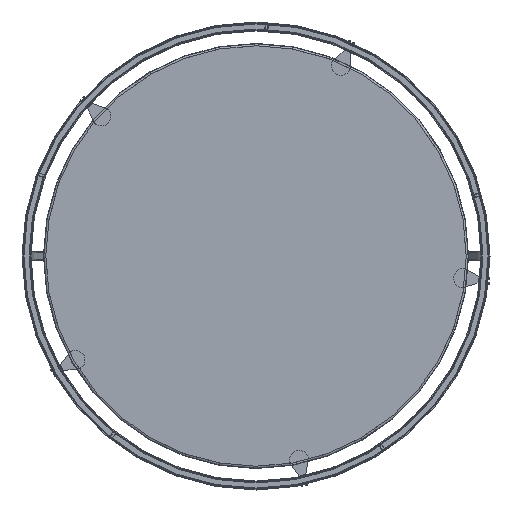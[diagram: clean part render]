
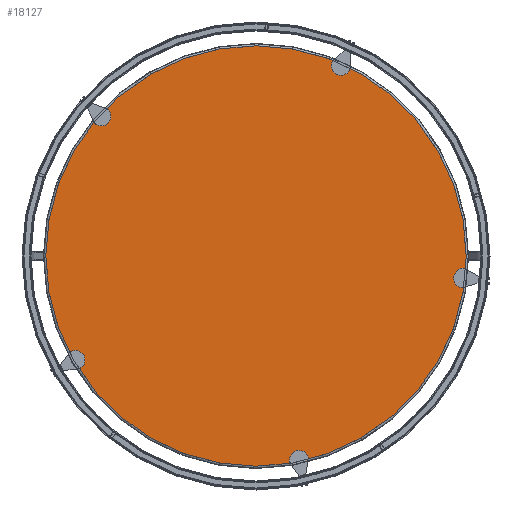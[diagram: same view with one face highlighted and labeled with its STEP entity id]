
A CAD part, front view. The second image highlights one B-rep face of the part: STEP entity #18127.
In plain terms, the highlighted planar face has unit normal (0, -1, 0).
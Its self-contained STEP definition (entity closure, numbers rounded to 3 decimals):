
#1790 = CARTESIAN_POINT ( 'NONE',  ( 0., -1., -539.1 ) ) ;
#3248 = PLANE ( 'NONE',  #25624 ) ;
#3994 = EDGE_LOOP ( 'NONE', ( #17633, #21022 ) ) ;
#4919 = EDGE_CURVE ( 'NONE', #10502, #18905, #30401, .T. ) ;
#5466 = FACE_OUTER_BOUND ( 'NONE', #3994, .T. ) ;
#9856 = DIRECTION ( 'NONE',  ( 0., 0., 1. ) ) ;
#10502 = VERTEX_POINT ( 'NONE', #1790 ) ;
#11548 = DIRECTION ( 'NONE',  ( 0., 0., 1. ) ) ;
#12165 = CARTESIAN_POINT ( 'NONE',  ( 0., -1., 0. ) ) ;
#14310 = AXIS2_PLACEMENT_3D ( 'NONE', #12165, #19381, #11548 ) ;
#15247 = EDGE_CURVE ( 'NONE', #18905, #10502, #29568, .T. ) ;
#17633 = ORIENTED_EDGE ( 'NONE', *, *, #15247, .F. ) ;
#18127 = ADVANCED_FACE ( 'NONE', ( #5466 ), #3248, .F. ) ;
#18235 = CARTESIAN_POINT ( 'NONE',  ( 0., -1., 539.1 ) ) ;
#18905 = VERTEX_POINT ( 'NONE', #18235 ) ;
#19381 = DIRECTION ( 'NONE',  ( 0., 1., 0. ) ) ;
#20204 = DIRECTION ( 'NONE',  ( 0., 0., 1. ) ) ;
#21022 = ORIENTED_EDGE ( 'NONE', *, *, #4919, .F. ) ;
#21776 = DIRECTION ( 'NONE',  ( 0., 1., 0. ) ) ;
#24585 = AXIS2_PLACEMENT_3D ( 'NONE', #29137, #21776, #9856 ) ;
#24588 = DIRECTION ( 'NONE',  ( 0., 1., 0. ) ) ;
#25624 = AXIS2_PLACEMENT_3D ( 'NONE', #29607, #24588, #20204 ) ;
#29137 = CARTESIAN_POINT ( 'NONE',  ( 0., -1., 0. ) ) ;
#29568 = CIRCLE ( 'NONE', #24585, 539.1 ) ;
#29607 = CARTESIAN_POINT ( 'NONE',  ( 0., -1., 0. ) ) ;
#30401 = CIRCLE ( 'NONE', #14310, 539.1 ) ;
